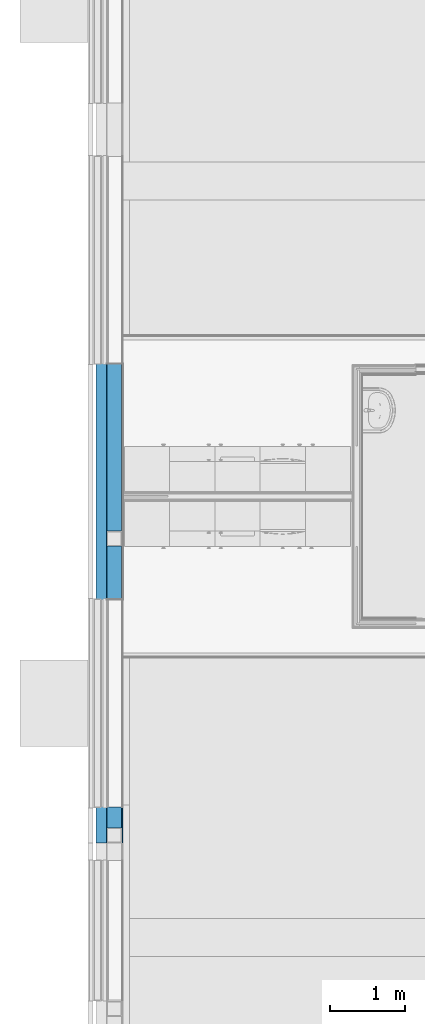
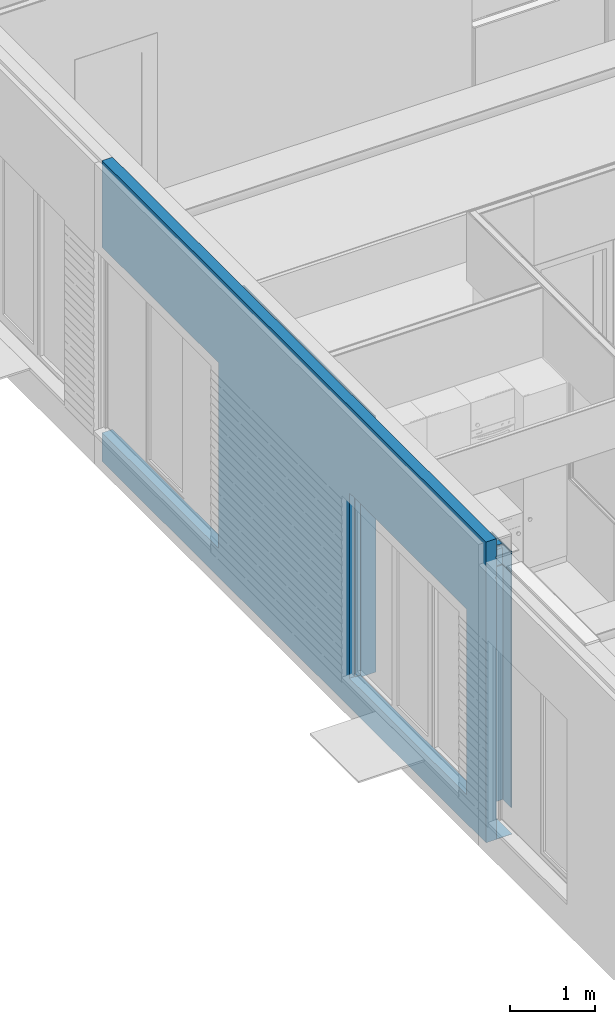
# One storey, part 52 of 165: 2 building element parts, 2 openings, 1 element without a shape of its own.
"""IFC2X3 building model written with IfcOpenShell, lengths in millimetres."""

from ifc_helpers import new_model, entity, si_unit, converted_unit, derived_unit, money_unit, direction, frame, origin_with_axes, place, context, subcontext, project, spatial, faceted_brep, material, type_object, element, aggregate, save


model = new_model("IFC2X3")

# Units and contexts
model_context = context("Model", 3, precision=0.01, world=origin_with_axes(), true_north=direction((0.0, 1.0)))
body_context = subcontext(model_context, "Body", "Model", "MODEL_VIEW")
ifc_project = project(units=[si_unit("LENGTHUNIT", "METRE", prefix="MILLI"), si_unit("AREAUNIT", "SQUARE_METRE"), si_unit("VOLUMEUNIT", "CUBIC_METRE"), converted_unit("PLANEANGLEUNIT", "DEGREE", entity("IfcPlaneAngleMeasure", 0.0174532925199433), si_unit("PLANEANGLEUNIT", "RADIAN"), dimensions=[0, 0, 0, 0, 0, 0, 0]), money_unit("EUR"), converted_unit("TIMEUNIT", "Year", entity("IfcTimeMeasure", 31556926.0), si_unit("TIMEUNIT", "SECOND"), dimensions=[0, 0, 1, 0, 0, 0, 0]), si_unit("MASSUNIT", "GRAM", prefix="KILO"), si_unit("THERMODYNAMICTEMPERATUREUNIT", "DEGREE_CELSIUS"), si_unit("LUMINOUSINTENSITYUNIT", "LUMEN"), si_unit("ENERGYUNIT", "JOULE", prefix="MEGA"), derived_unit("THERMALCONDUCTANCEUNIT", [(si_unit("POWERUNIT", "WATT"), 1), (si_unit("LENGTHUNIT", "METRE"), -1), (si_unit("THERMODYNAMICTEMPERATUREUNIT", "KELVIN"), -1)]), derived_unit("SPECIFICHEATCAPACITYUNIT", [(si_unit("ENERGYUNIT", "JOULE"), 1), (si_unit("MASSUNIT", "GRAM", prefix="KILO"), -1), (si_unit("THERMODYNAMICTEMPERATUREUNIT", "KELVIN"), -1)]), derived_unit("MASSDENSITYUNIT", [(si_unit("MASSUNIT", "GRAM", prefix="KILO"), 1), (si_unit("VOLUMEUNIT", "CUBIC_METRE"), -1)])], contexts=[model_context])

# Site, building, storey
site_placement = place(None, origin_with_axes())
site = spatial("IfcSite", under=ifc_project, at=site_placement, Name="Site", CompositionType="ELEMENT")
building_placement = place(site_placement, origin_with_axes())
building = spatial("IfcBuilding", under=site, at=building_placement, Name="Naam gebouw", CompositionType="ELEMENT")
storey_placement = place(building_placement, origin_with_axes())
storey = spatial("IfcBuildingStorey", under=building, at=storey_placement, Name="Begane grond", CompositionType="ELEMENT", Elevation=0.0)

# Wall, openings, building element parts
wall_type = type_object("IfcWallType", Name="21 Buitenwand spouwmuur 464", PredefinedType="NOTDEFINED")
wall_placement = place(storey_placement, frame((0.0, 6779.999999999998, -485.0), z_axis=(0.0, 0.0, 1.0), x_axis=(0.0, 1.0, 0.0)))
wall = element("IfcWall", 1, at=wall_placement, inside=storey, type_object=wall_type, Name="21_Wand-x")
opening_1_placement = place(wall_placement, frame((1850.0, 0.0, 475.0), z_axis=(0.0, 0.0, 1.0), x_axis=(1.0, 0.0, 0.0)))
element("IfcOpeningElement", 2, at=opening_1_placement, cuts=wall, Name="_Merk AC", context=body_context, shape_type="Brep", body=[
    faceted_brep([(1375.0, 0.0, -60.00000000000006), (1375.0, 0.0, 2620.0), (1375.0, 0.0, 3620.0), (1375.0, -215.0000000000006, 3620.0), (1375.0, -215.0000000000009, -1060.0), (1375.0, 0.0, -1060.0), (1375.0, 72.00000000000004, -60.00000000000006), (1375.0, 72.00000000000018, 2620.0), (-1375.0, 0.0, 2620.0), (-1375.0, 0.0, 3620.0), (-1375.0, -215.0000000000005, 3620.0), (-1375.0, -215.0000000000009, -1060.0), (-1375.0, 0.0, -1060.0), (-1375.0, 0.0, -60.00000000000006), (-1375.0, 72.00000000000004, -60.00000000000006), (1385.0, 72.00000000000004, -60.00000000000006), (1385.0, 72.0000000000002, 2620.0), (-1375.0, 72.0000000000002, 2620.0), (-1385.0, 72.00000000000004, -60.00000000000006), (-1385.0, 251.0000000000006, -60.00000000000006), (1385.0, 251.0000000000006, -60.00000000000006), (1385.0, 251.0000000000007, 2620.0), (-1385.0, 251.0000000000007, 2620.0), (-1385.0, 72.0000000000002, 2620.0)], [[[0, 1, 2, 3, 4, 5]], [[1, 0, 6, 7]], [[1, 8, 9, 2]], [[2, 9, 10, 3]], [[10, 11, 4, 3]], [[12, 5, 4, 11]], [[13, 0, 5, 12]], [[0, 13, 14, 6]], [[7, 6, 15, 16]], [[8, 1, 7, 17]], [[8, 13, 12, 11, 10, 9]], [[13, 8, 17, 14]], [[6, 14, 18, 19, 20, 15]], [[16, 15, 20, 21]], [[17, 7, 16, 21, 22, 23]], [[14, 17, 23, 18]], [[18, 23, 22, 19]], [[21, 20, 19, 22]]]),
])
opening_2_placement = place(wall_placement, frame((7719.999811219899, 0.0, 475.0), z_axis=(0.0, 0.0, 1.0), x_axis=(1.0, 0.0, 0.0)))
element("IfcOpeningElement", 3, at=opening_2_placement, cuts=wall, Name="_Merk AF", context=body_context, shape_type="Brep", body=[
    faceted_brep([(1375.0, 0.0, -60.00000000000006), (1375.0, 0.0, 2620.0), (1375.0, 0.0, 3620.0), (1375.0, -215.0000000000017, 3620.0), (1375.0, -215.000000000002, -1060.0), (1375.0, 0.0, -1060.0), (1375.0, 71.99999999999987, -60.00000000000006), (1375.0, 72.00000000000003, 2620.0), (-1375.0, 0.0, 2620.0), (-1375.0, 0.0, 3620.0), (-1375.0, -215.0000000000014, 3620.0), (-1375.0, -215.0000000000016, -1060.0), (-1375.0, 0.0, -1060.0), (-1375.0, 0.0, -60.00000000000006), (-1375.0, 72.0000000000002, -60.00000000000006), (1385.0, 71.99999999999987, -60.00000000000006), (1385.0, 72.00000000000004, 2620.0), (-1375.0, 72.00000000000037, 2620.0), (-1385.0, 72.00000000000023, -60.00000000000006), (-1385.0, 251.0000000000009, -60.00000000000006), (1385.0, 251.0000000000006, -60.00000000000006), (1385.0, 251.0000000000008, 2620.0), (-1385.0, 251.000000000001, 2620.0), (-1385.0, 72.00000000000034, 2620.0)], [[[0, 1, 2, 3, 4, 5]], [[1, 0, 6, 7]], [[1, 8, 9, 2]], [[2, 9, 10, 3]], [[10, 11, 4, 3]], [[12, 5, 4, 11]], [[13, 0, 5, 12]], [[0, 13, 14, 6]], [[7, 6, 15, 16]], [[8, 1, 7, 17]], [[8, 13, 12, 11, 10, 9]], [[13, 8, 17, 14]], [[6, 14, 18, 19, 20, 15]], [[16, 15, 20, 21]], [[17, 7, 16, 21, 22, 23]], [[14, 17, 23, 18]], [[18, 23, 22, 19]], [[21, 20, 19, 22]]]),
])
ifc_material_1 = material(Name="Isolatie - Steenwol zacht")
building_element_part_1_placement = place(wall_placement, origin_with_axes())
building_element_part_1 = element("IfcBuildingElementPart", 4, at=building_element_part_1_placement, material=ifc_material_1, Name="Isolatie - Steenwol zacht", context=body_context, shape_type="Brep", body=[
    faceted_brep([(3235.0, 72.00000000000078, 414.9999999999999), (3225.0, 72.00000000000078, 414.9999999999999), (3225.0, 72.00000000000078, 3095.0), (3235.0, 72.00000000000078, 3095.0), (465.0000000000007, 72.00000000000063, 414.9999999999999), (475.0000000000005, 72.00000000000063, 414.9999999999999), (3235.0, 145.0000000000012, 414.9999999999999), (465.0000000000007, 145.000000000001, 414.9999999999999), (3225.0, 0.0, 414.9999999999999), (3225.0, 0.0, 3095.0), (475.0000000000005, 72.00000000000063, 3095.0), (465.0000000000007, 72.00000000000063, 3095.0), (465.0000000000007, 145.000000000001, 3095.0), (3235.0, 145.0000000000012, 3095.0), (475.0000000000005, 0.0, 414.9999999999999), (9084.999811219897, 145.0000000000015, 3095.0), (6334.999811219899, 145.0000000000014, 3095.0), (6334.999811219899, 145.0000000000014, 414.9999999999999), (9084.999811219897, 145.0000000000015, 415.0000000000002), (9084.999811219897, 145.0000000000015, 0.0), (0.0, 145.000000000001, 0.0), (0.0, 145.000000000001, 4345.0), (9084.999811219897, 145.0000000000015, 4345.0), (0.0, 0.0, 4055.0), (499.9999999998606, 0.0, 4055.0), (499.9999999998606, 0.0, 3775.0), (0.0, 0.0, 3775.0), (0.0, 0.0, 0.0), (9084.999811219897, 0.0, 0.0), (9084.999811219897, 0.0, 414.9999999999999), (6344.999811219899, 0.0, 414.9999999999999), (6344.999811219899, 0.0, 3095.0), (9084.999811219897, 0.0, 3095.0), (9084.999811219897, 0.0, 4064.999999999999), (0.0, 0.0, 4064.999999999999), (475.0000000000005, 0.0, 3095.0), (9084.999811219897, 71.99999999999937, 3095.0), (6344.999811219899, 72.00000000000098, 3095.0), (6334.999811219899, 72.00000000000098, 3095.0), (6334.999811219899, 72.00000000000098, 414.9999999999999), (6344.999811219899, 72.00000000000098, 414.9999999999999), (9084.999811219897, 71.99999999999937, 414.9999999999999), (0.0, 0.9999999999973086, 4079.999999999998), (0.0, 0.9999999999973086, 4344.999999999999), (0.0, 16.0000000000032, 3775.0), (0.0, 16.0000000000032, 3790.0), (0.0, 1.000000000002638, 3790.0), (0.0, 1.000000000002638, 4055.0), (0.0, 15.99999999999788, 4064.999999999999), (0.0, 15.99999999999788, 4079.999999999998), (9084.999811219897, 0.9999999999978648, 4344.999999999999), (9084.999811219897, 0.9999999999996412, 4079.999999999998), (9084.999811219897, 15.99999999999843, 4079.999999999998), (9084.999811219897, 15.99999999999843, 4064.999999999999), (499.9999999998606, 1.000000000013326, 4055.0), (499.9999999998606, 16.00000000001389, 3790.0), (499.9999999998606, 16.00000000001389, 3775.0), (499.9999999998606, 1.000000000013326, 3790.0)], [[[0, 1, 2, 3]], [[4, 5, 1, 0, 6, 7]], [[1, 8, 9, 2]], [[3, 2, 10, 11, 12, 13]], [[13, 6, 0, 3]], [[11, 10, 5, 4]], [[5, 14, 8, 1]], [[15, 16, 17, 18, 19, 20, 21, 22], [7, 6, 13, 12]], [[7, 12, 11, 4]], [[23, 24, 25, 26, 27, 28, 29, 30, 31, 32, 33, 34], [8, 14, 35, 9]], [[2, 9, 35, 10]], [[10, 35, 14, 5]], [[16, 15, 36, 37, 38]], [[38, 39, 17, 16]], [[17, 39, 40, 41, 18]], [[19, 18, 41, 29, 28]], [[27, 20, 19, 28]], [[42, 43, 21, 20, 27, 26, 44, 45, 46, 47, 23, 34, 48, 49]], [[22, 21, 43, 50]], [[15, 22, 50, 51, 52, 53, 33, 32, 36]], [[47, 54, 24, 23]], [[55, 56, 25, 24, 54, 57]], [[56, 44, 26, 25]], [[29, 41, 40, 30]], [[30, 40, 37, 31]], [[32, 31, 37, 36]], [[53, 48, 34, 33]], [[40, 39, 38, 37]], [[43, 42, 51, 50]], [[56, 55, 45, 44]], [[55, 57, 46, 45]], [[57, 54, 47, 46]], [[49, 48, 53, 52]], [[42, 49, 52, 51]]]),
])
ifc_material_2 = material(Name="Steen - Kalkzandsteen C")
building_element_part_2_placement = place(wall_placement, origin_with_axes())
building_element_part_2 = element("IfcBuildingElementPart", 5, at=building_element_part_2_placement, material=ifc_material_2, Name="Steen - Kalkzandsteen C", context=body_context, shape_type="Brep", body=[
    faceted_brep([(6344.999811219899, 0.0, 5.000000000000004), (6344.999811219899, -213.9999999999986, 5.000000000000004), (6344.999811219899, -213.9999999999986, 0.0), (6344.999811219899, 0.0, 0.0), (3225.0, -213.9999999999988, 5.000000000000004), (4130.000110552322, 0.0, 5.000000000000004), (4130.000110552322, -199.9999999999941, 5.000000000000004), (3930.000110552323, -199.9999999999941, 5.000000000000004), (3930.000110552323, 0.0, 5.000000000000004), (3225.0, 0.0, 5.000000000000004), (3225.0, -213.9999999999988, 0.0), (3225.0, 0.0, 0.0)], [[[0, 1, 2, 3]], [[4, 1, 0, 5, 6, 7, 8, 9]], [[1, 4, 10, 2]], [[2, 10, 11, 3]], [[5, 0, 3, 11, 9, 8]], [[6, 5, 8, 7]], [[4, 9, 11, 10]]]),
    faceted_brep([(199.9999999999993, -194.9999999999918, 3790.0), (475.0000000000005, -194.9999999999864, 3790.0), (475.0000000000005, -194.9999999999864, 4025.0), (199.9999999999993, -194.9999999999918, 4025.0), (199.9999999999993, -4.999999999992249, 3790.0), (475.0000000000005, -4.999999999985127, 3790.0), (475.0000000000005, -4.999999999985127, 4025.0), (199.9999999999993, -4.999999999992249, 4025.0)], [[[0, 1, 2, 3]], [[4, 5, 1, 0]], [[5, 6, 2, 1]], [[3, 2, 6, 7]], [[3, 7, 4, 0]], [[7, 6, 5, 4]]]),
    faceted_brep([(475.0000000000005, 0.0, 5.000000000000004), (475.0000000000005, -213.999999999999, 5.000000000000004), (475.0000000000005, -213.999999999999, 0.0), (475.0000000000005, 0.0, 0.0), (0.0, -213.999999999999, 5.000000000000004), (199.9999999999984, 0.0, 5.000000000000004), (199.9999999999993, -199.9999999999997, 5.000000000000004), (0.0, -199.9999999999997, 5.000000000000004), (0.0, -213.999999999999, 0.0), (0.0, 0.0, 0.0), (0.0, 0.0, 5.000000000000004)], [[[0, 1, 2, 3]], [[4, 1, 0, 5, 6, 7]], [[1, 4, 8, 2]], [[9, 3, 2, 8]], [[5, 0, 3, 9, 10]], [[6, 5, 10, 7]], [[4, 7, 10, 9, 8]]]),
    faceted_brep([(0.0, -213.999999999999, 3790.0), (475.0000000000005, -213.999999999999, 3790.0), (475.0000000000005, -213.999999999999, 4064.999999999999), (0.0, -213.999999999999, 4064.999999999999), (0.0, -200.9999999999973, 3790.0), (475.0000000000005, -200.9999999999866, 3790.0), (475.0000000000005, 0.0, 4055.0), (475.0000000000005, 0.0, 4064.999999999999), (475.0000000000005, -200.9999999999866, 4055.0), (199.9999999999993, 0.0, 4064.999999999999), (199.9999999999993, -199.9999999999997, 4064.999999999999), (0.0, -199.9999999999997, 4064.999999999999), (0.0, -199.9999999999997, 4055.0), (0.0, -200.9999999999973, 4055.0), (199.9999999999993, 0.0, 4055.0), (199.9999999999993, -199.9999999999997, 4055.0)], [[[0, 1, 2, 3]], [[4, 5, 1, 0]], [[6, 7, 2, 1, 5, 8]], [[3, 2, 7, 9, 10, 11]], [[3, 11, 12, 13, 4, 0]], [[13, 8, 5, 4]], [[9, 7, 6, 14]], [[14, 6, 8, 13, 12, 15]], [[9, 14, 15, 10]], [[10, 15, 12, 11]]]),
    faceted_brep([(3225.0, -213.9999999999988, 384.9999999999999), (6344.999811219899, -213.9999999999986, 384.9999999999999), (6344.999811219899, -213.9999999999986, 4064.999999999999), (3225.0, -213.9999999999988, 4064.999999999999), (6344.999811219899, 0.0, 384.9999999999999), (3225.0, 0.0, 384.9999999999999), (3930.000110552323, 0.0, 384.9999999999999), (3930.000110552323, -199.9999999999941, 384.9999999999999), (4130.000110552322, -199.9999999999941, 384.9999999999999), (4130.000110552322, 0.0, 384.9999999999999), (6344.999811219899, 0.0, 4064.999999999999), (3930.000110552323, 0.0, 4064.999999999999), (3225.0, 0.0, 4064.999999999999), (4130.000110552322, 0.0, 4064.999999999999), (4130.000110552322, -199.9999999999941, 4064.999999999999), (3930.000110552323, -199.9999999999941, 4064.999999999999)], [[[0, 1, 2, 3]], [[4, 1, 0, 5, 6, 7, 8, 9]], [[1, 4, 10, 2]], [[11, 12, 3, 2, 10, 13, 14, 15]], [[5, 0, 3, 12]], [[6, 5, 12, 11]], [[7, 6, 11, 15]], [[8, 7, 15, 14]], [[9, 8, 14, 13]], [[4, 9, 13, 10]]]),
    faceted_brep([(0.0, -213.999999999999, 384.9999999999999), (475.0000000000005, -213.999999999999, 384.9999999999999), (475.0000000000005, -213.999999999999, 3775.0), (0.0, -213.999999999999, 3775.0), (475.0000000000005, 0.0, 384.9999999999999), (0.0, -199.9999999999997, 384.9999999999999), (199.9999999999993, -199.9999999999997, 384.9999999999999), (199.9999999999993, 0.0, 384.9999999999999), (475.0000000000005, 0.0, 3775.0), (199.9999999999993, 0.0, 3775.0), (199.9999999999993, -199.9999999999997, 3775.0), (0.0, -199.9999999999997, 3775.0)], [[[0, 1, 2, 3]], [[4, 1, 0, 5, 6, 7]], [[1, 4, 8, 2]], [[3, 2, 8, 9, 10, 11]], [[5, 0, 3, 11]], [[6, 5, 11, 10]], [[7, 6, 10, 9]], [[4, 7, 9, 8]]]),
    faceted_brep([(475.0000000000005, -195.0000000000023, 4079.999999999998), (475.0000000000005, -195.0000000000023, 4084.999999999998), (199.9999999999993, -195.0000000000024, 4084.999999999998), (199.9999999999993, -195.0000000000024, 4079.999999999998), (475.0000000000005, -5.000000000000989, 4084.999999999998), (475.0000000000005, -5.000000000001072, 4079.999999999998), (199.9999999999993, -5.00000000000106, 4084.999999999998), (199.9999999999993, -5.000000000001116, 4079.999999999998)], [[[0, 1, 2, 3]], [[4, 1, 0, 5]], [[1, 4, 6, 2]], [[2, 6, 7, 3]], [[5, 0, 3, 7]], [[4, 5, 7, 6]]]),
    faceted_brep([(3225.0, -5.000000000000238, 4084.999999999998), (3225.0, -195.0000000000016, 4084.999999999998), (3930.000110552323, -195.0000000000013, 4084.999999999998), (3930.000110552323, -5.000000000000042, 4084.999999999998), (3225.0, -195.0000000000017, 4079.999999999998), (3225.0, -5.000000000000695, 4079.999999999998), (3930.000110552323, -195.0000000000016, 4079.999999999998), (3930.000110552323, -5.000000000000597, 4079.999999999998)], [[[0, 1, 2, 3]], [[4, 1, 0, 5]], [[1, 4, 6, 2]], [[2, 6, 7, 3]], [[5, 0, 3, 7]], [[4, 5, 7, 6]]]),
    faceted_brep([(6344.999811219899, -195.000000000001, 4079.999999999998), (6344.999811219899, -195.0000000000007, 4084.999999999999), (4130.000110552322, -195.0000000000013, 4084.999999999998), (4130.000110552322, -195.0000000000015, 4079.999999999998), (6344.999811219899, -4.999999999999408, 4084.999999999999), (6344.999811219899, -5.000000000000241, 4079.999999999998), (4130.000110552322, -5.000000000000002, 4084.999999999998), (4130.000110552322, -5.000000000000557, 4079.999999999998)], [[[0, 1, 2, 3]], [[4, 1, 0, 5]], [[1, 4, 6, 2]], [[2, 6, 7, 3]], [[5, 0, 3, 7]], [[4, 5, 7, 6]]]),
    faceted_brep([(475.0000000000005, -213.999999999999, 4079.999999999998), (475.0000000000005, -213.999999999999, 4085.0), (0.0, -213.999999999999, 4085.0), (0.0, -213.999999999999, 4079.999999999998), (475.0000000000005, -201.0000000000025, 4085.0), (475.0000000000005, -201.0000000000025, 4079.999999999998), (0.0, -201.0000000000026, 4085.0), (0.0, -201.0000000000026, 4079.999999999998)], [[[0, 1, 2, 3]], [[4, 1, 0, 5]], [[1, 4, 6, 2]], [[2, 6, 7, 3]], [[5, 0, 3, 7]], [[4, 5, 7, 6]]]),
    faceted_brep([(3225.0, -201.0000000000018, 4085.0), (3225.0, -213.9999999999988, 4085.0), (6344.999811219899, -213.9999999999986, 4085.0), (6344.999811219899, -201.000000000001, 4085.0), (3225.0, -213.9999999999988, 4079.999999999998), (3225.0, -201.000000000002, 4079.999999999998), (6344.999811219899, -213.9999999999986, 4079.999999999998), (6344.999811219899, -201.0000000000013, 4079.999999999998)], [[[0, 1, 2, 3]], [[4, 1, 0, 5]], [[1, 4, 6, 2]], [[2, 6, 7, 3]], [[5, 0, 3, 7]], [[4, 5, 7, 6]]]),
])
aggregate(wall, [building_element_part_1, building_element_part_2])

save(model, "model.ifc")
